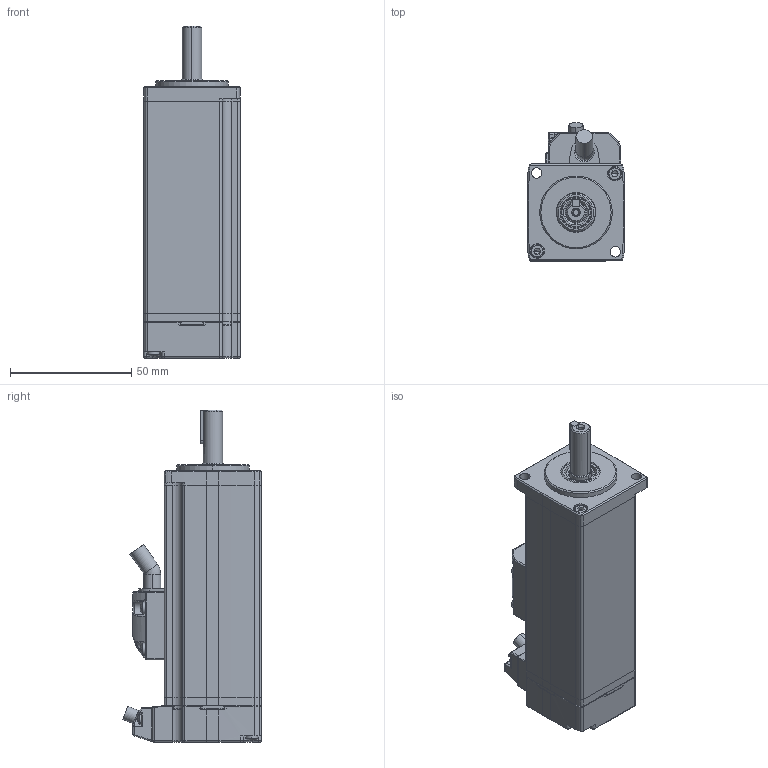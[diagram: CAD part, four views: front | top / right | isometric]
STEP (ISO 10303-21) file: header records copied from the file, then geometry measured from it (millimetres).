
FILE_DESCRIPTION (( 'STEP AP203' ), '1' );
FILE_NAME ('EM3A01A 抱闸（永磁交流伺服抱闸电动机外形图）.STEP', '2018-12-26T02:50:44', ( '' ), ( '' ), 'SwSTEP 2.0', 'SolidWorks 2016', '' );
FILE_SCHEMA (( 'CONFIG_CONTROL_DESIGN' ));
Length unit declared in the file: millimetre
Products named in the file (1): EM3A01A 抱闸（永磁交流伺服抱闸电动机外形图）
Bounding box: 40 x 57.22 x 137 mm (x, y, z)
Surface area: 27647.2 mm2 (no closed solid volume)
Topology: 0 solids, 26 shells, 561 faces, 1653 edges, 1081 vertices
Faces by surface type: cylinder 209, plane 207, cone 45, torus 39, sphere 39, bspline 22
Entity records: 19514 total; most frequent: CARTESIAN_POINT 4591, DIRECTION 3366, ORIENTED_EDGE 2795, EDGE_CURVE 1638, AXIS2_PLACEMENT_3D 1335, VERTEX_POINT 1081, CIRCLE 795, VECTOR 696
